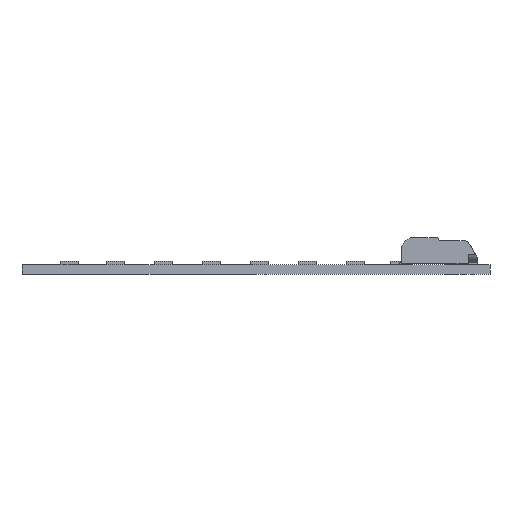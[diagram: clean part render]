
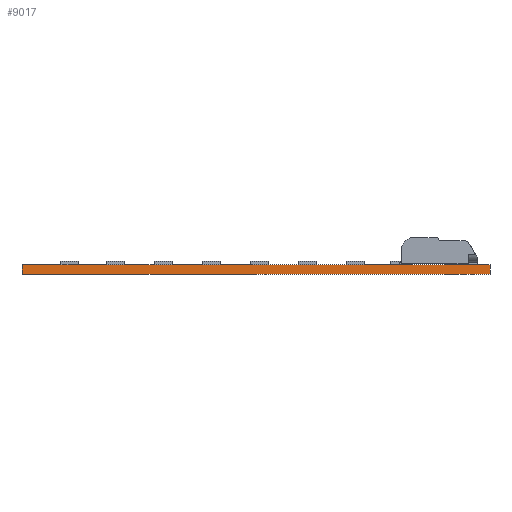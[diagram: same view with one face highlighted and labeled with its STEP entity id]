
A CAD part, left-side view. The second image highlights one B-rep face of the part: STEP entity #9017.
In plain terms, the highlighted planar face has unit normal (-1, 0, 0).
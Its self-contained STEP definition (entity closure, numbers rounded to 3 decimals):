
#110=DIRECTION('',(0.,1.,0.));
#111=VECTOR('',#110,78.);
#112=CARTESIAN_POINT('',(-39.,-42.5,1.65));
#113=LINE('',#112,#111);
#738=DIRECTION('',(0.,0.,1.));
#739=VECTOR('',#738,1.65);
#740=CARTESIAN_POINT('',(-39.,35.5,0.));
#741=LINE('',#740,#739);
#752=DIRECTION('',(0.,0.,1.));
#753=VECTOR('',#752,1.65);
#754=CARTESIAN_POINT('',(-39.,-42.5,0.));
#755=LINE('',#754,#753);
#766=DIRECTION('',(0.,-1.,0.));
#767=VECTOR('',#766,78.);
#768=CARTESIAN_POINT('',(-39.,35.5,0.));
#769=LINE('',#768,#767);
#7229=CARTESIAN_POINT('',(-39.,35.5,1.65));
#7231=VERTEX_POINT('',#7229);
#7235=CARTESIAN_POINT('',(-39.,-42.5,1.65));
#7236=VERTEX_POINT('',#7235);
#7553=CARTESIAN_POINT('',(-39.,35.5,0.));
#7554=VERTEX_POINT('',#7553);
#7557=CARTESIAN_POINT('',(-39.,-42.5,0.));
#7558=VERTEX_POINT('',#7557);
#9004=CARTESIAN_POINT('',(-39.,35.5,1.65));
#9005=DIRECTION('',(-1.,0.,0.));
#9006=DIRECTION('',(0.,0.,1.));
#9007=AXIS2_PLACEMENT_3D('',#9004,#9005,#9006);
#9008=PLANE('',#9007);
#9010=ORIENTED_EDGE('',*,*,#9009,.F.);
#9012=ORIENTED_EDGE('',*,*,#9011,.F.);
#9013=ORIENTED_EDGE('',*,*,#8987,.T.);
#9014=ORIENTED_EDGE('',*,*,#8565,.F.);
#9015=EDGE_LOOP('',(#9010,#9012,#9013,#9014));
#9016=FACE_OUTER_BOUND('',#9015,.F.);
#8565=EDGE_CURVE('',#7236,#7231,#113,.T.);
#8987=EDGE_CURVE('',#7554,#7231,#741,.T.);
#9009=EDGE_CURVE('',#7558,#7236,#755,.T.);
#9011=EDGE_CURVE('',#7554,#7558,#769,.T.);
#9017=ADVANCED_FACE('',(#9016),#9008,.T.);
